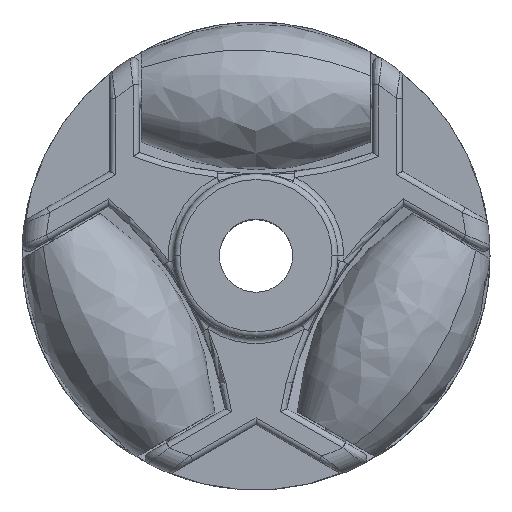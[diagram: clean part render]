
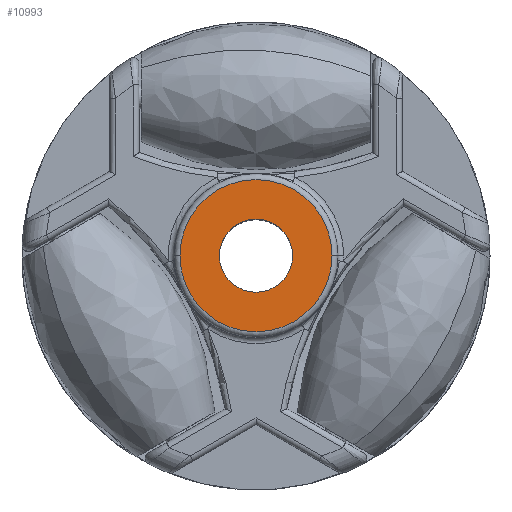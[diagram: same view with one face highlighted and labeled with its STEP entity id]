
A CAD part, top view. The second image highlights one B-rep face of the part: STEP entity #10993.
In plain terms, the highlighted planar face has unit normal (0, 0, 1).
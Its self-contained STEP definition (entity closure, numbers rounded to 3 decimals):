
#715 = FACE_OUTER_BOUND ( 'NONE', #5401, .T. ) ;
#864 = DIRECTION ( 'NONE',  ( 0., 0., 1. ) ) ;
#1009 = ORIENTED_EDGE ( 'NONE', *, *, #14908, .F. ) ;
#1862 = FACE_BOUND ( 'NONE', #10529, .T. ) ;
#2385 = CARTESIAN_POINT ( 'NONE',  ( 0., 0., 30. ) ) ;
#2433 = AXIS2_PLACEMENT_3D ( 'NONE', #13508, #3026, #6595 ) ;
#3026 = DIRECTION ( 'NONE',  ( 0., 0., 1. ) ) ;
#3084 = VERTEX_POINT ( 'NONE', #7518 ) ;
#3230 = ORIENTED_EDGE ( 'NONE', *, *, #7807, .F. ) ;
#4930 = AXIS2_PLACEMENT_3D ( 'NONE', #2385, #5810, #11867 ) ;
#4984 = DIRECTION ( 'NONE',  ( 1., 0., 0. ) ) ;
#5071 = CARTESIAN_POINT ( 'NONE',  ( 0., 0., 30. ) ) ;
#5219 = DIRECTION ( 'NONE',  ( 0., 0., 1. ) ) ;
#5337 = AXIS2_PLACEMENT_3D ( 'NONE', #12575, #864, #6602 ) ;
#5401 = EDGE_LOOP ( 'NONE', ( #8093, #12145 ) ) ;
#5722 = CARTESIAN_POINT ( 'NONE',  ( 13., 0., 30. ) ) ;
#5810 = DIRECTION ( 'NONE',  ( 0., 0., 1. ) ) ;
#6162 = CIRCLE ( 'NONE', #4930, 6.25 ) ;
#6595 = DIRECTION ( 'NONE',  ( 1., 0., 0. ) ) ;
#6602 = DIRECTION ( 'NONE',  ( 1., 0., 0. ) ) ;
#6933 = VERTEX_POINT ( 'NONE', #14939 ) ;
#7144 = CARTESIAN_POINT ( 'NONE',  ( 0., 0., 30. ) ) ;
#7518 = CARTESIAN_POINT ( 'NONE',  ( 6.25, 0., 30. ) ) ;
#7643 = CIRCLE ( 'NONE', #2433, 6.25 ) ;
#7807 = EDGE_CURVE ( 'NONE', #3084, #6933, #6162, .T. ) ;
#8093 = ORIENTED_EDGE ( 'NONE', *, *, #9729, .T. ) ;
#9052 = VERTEX_POINT ( 'NONE', #5722 ) ;
#9729 = EDGE_CURVE ( 'NONE', #9052, #11176, #13143, .T. ) ;
#9790 = DIRECTION ( 'NONE',  ( 0., 0., 1. ) ) ;
#9801 = DIRECTION ( 'NONE',  ( 1., 0., 0. ) ) ;
#10529 = EDGE_LOOP ( 'NONE', ( #1009, #3230 ) ) ;
#10993 = ADVANCED_FACE ( 'NONE', ( #715, #1862 ), #14829, .T. ) ;
#11176 = VERTEX_POINT ( 'NONE', #12112 ) ;
#11412 = AXIS2_PLACEMENT_3D ( 'NONE', #7144, #9790, #4984 ) ;
#11867 = DIRECTION ( 'NONE',  ( 1., 0., 0. ) ) ;
#12112 = CARTESIAN_POINT ( 'NONE',  ( -13., 0., 30. ) ) ;
#12145 = ORIENTED_EDGE ( 'NONE', *, *, #13689, .T. ) ;
#12571 = CIRCLE ( 'NONE', #14551, 13. ) ;
#12575 = CARTESIAN_POINT ( 'NONE',  ( 0., 0., 30. ) ) ;
#13143 = CIRCLE ( 'NONE', #11412, 13. ) ;
#13508 = CARTESIAN_POINT ( 'NONE',  ( 0., 0., 30. ) ) ;
#13689 = EDGE_CURVE ( 'NONE', #11176, #9052, #12571, .T. ) ;
#14551 = AXIS2_PLACEMENT_3D ( 'NONE', #5071, #5219, #9801 ) ;
#14829 = PLANE ( 'NONE',  #5337 ) ;
#14908 = EDGE_CURVE ( 'NONE', #6933, #3084, #7643, .T. ) ;
#14939 = CARTESIAN_POINT ( 'NONE',  ( -6.25, 0., 30. ) ) ;
